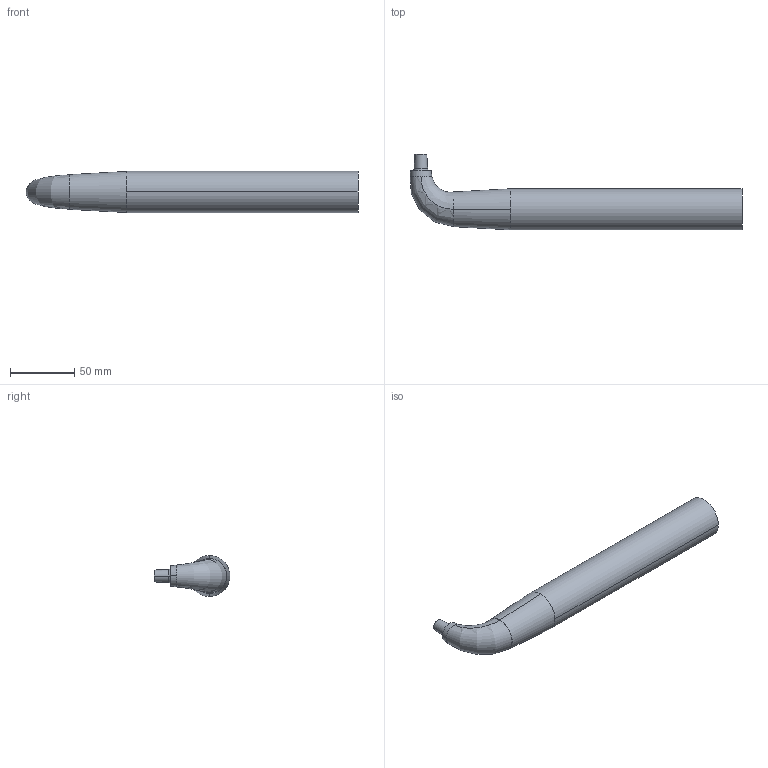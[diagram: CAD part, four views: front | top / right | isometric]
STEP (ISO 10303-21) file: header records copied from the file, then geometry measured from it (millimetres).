
FILE_DESCRIPTION( (''), '2;1');
FILE_NAME ('SY-2080-20_TB-32250-90-C1.stp','2022-04-10T00:00:32',(''),(''),'spGate 18.9.3 (****-****-****-****)','','');
FILE_SCHEMA (('AUTOMOTIVE_DESIGN'));
Length unit declared in the file: millimetre
Products named in the file (22): Assembly; SY-2080-20_TB-32250-90-C1-prt0; SY-2080-20_TB-32250-90-C1-prt1; SY-2080-20_TB-32250-90-C1-prt2; SY-2080-20_TB-32250-90-C1-prt3; SY-2080-20_TB-32250-90-C1-prt4; SY-2080-20_TB-32250-90-C1-prt5; SY-2080-20_TB-32250-90-C1-prt6; SY-2080-20_TB-32250-90-C1-prt7; SY-2080-20_TB-32250-90-C1-prt8; SY-2080-20_TB-32250-90-C1-prt9; SY-2080-20_TB-32250-90-C1-prt10; SY-2080-20_TB-32250-90-C1-prt11; SY-2080-20_TB-32250-90-C1-prt12; SY-2080-20_TB-32250-90-C1-prt13; SY-2080-20_TB-32250-90-C1-prt14; SY-2080-20_TB-32250-90-C1-prt15; SY-2080-20_TB-32250-90-C1-prt16; SY-2080-20_TB-32250-90-C1-prt17; SY-2080-20_TB-32250-90-C1-prt18; SY-2080-20_TB-32250-90-C1-prt19; SY-2080-20_TB-32250-90-C1-prt20
Assembly tree (21 placements, depth 2):
  Assembly
    SY-2080-20_TB-32250-90-C1-prt0
    SY-2080-20_TB-32250-90-C1-prt1
    SY-2080-20_TB-32250-90-C1-prt2
    SY-2080-20_TB-32250-90-C1-prt3
    SY-2080-20_TB-32250-90-C1-prt4
    SY-2080-20_TB-32250-90-C1-prt5
    SY-2080-20_TB-32250-90-C1-prt6
    SY-2080-20_TB-32250-90-C1-prt7
    SY-2080-20_TB-32250-90-C1-prt8
    SY-2080-20_TB-32250-90-C1-prt9
    SY-2080-20_TB-32250-90-C1-prt10
    SY-2080-20_TB-32250-90-C1-prt11
    SY-2080-20_TB-32250-90-C1-prt12
    SY-2080-20_TB-32250-90-C1-prt13
    SY-2080-20_TB-32250-90-C1-prt14
    SY-2080-20_TB-32250-90-C1-prt15
    SY-2080-20_TB-32250-90-C1-prt16
    SY-2080-20_TB-32250-90-C1-prt17
    SY-2080-20_TB-32250-90-C1-prt18
    SY-2080-20_TB-32250-90-C1-prt19
    SY-2080-20_TB-32250-90-C1-prt20
Bounding box: 258.47 x 59 x 32 mm (x, y, z)
Volume: 174159.5 mm3; surface area: 34746.8 mm2
Topology: 1 solids, 1 shells, 34 faces, 94 edges, 85 vertices
Faces by surface type: bspline 20, plane 8, cylinder 6
Entity records: 3371 total; most frequent: CARTESIAN_POINT 1413, DIRECTION 233, ORIENTED_EDGE 148, COLOUR_RGB 129, PRESENTATION_STYLE_ASSIGNMENT 129, STYLED_ITEM 129, AXIS2_PLACEMENT_3D 109, DRAUGHTING_PRE_DEFINED_CURVE_FONT 94
